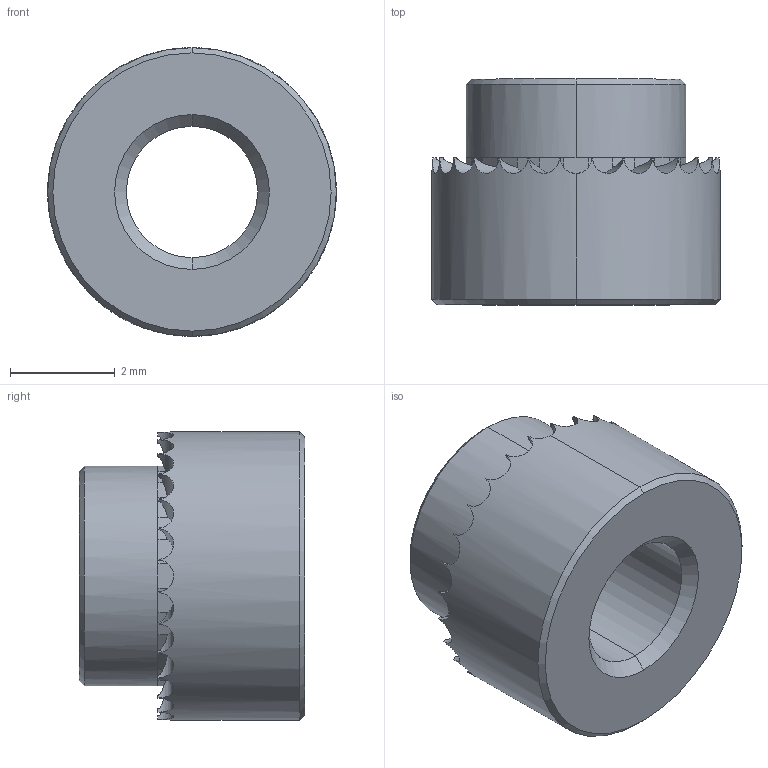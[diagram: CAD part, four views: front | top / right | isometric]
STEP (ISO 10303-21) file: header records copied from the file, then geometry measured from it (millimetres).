
FILE_DESCRIPTION (( 'STEP AP203' ), '1' );
FILE_NAME ('P0829.025-20G-ZP.step', '2019-03-21T22:10:56', ( '' ), ( '' ), 'SwSTEP 2.0', 'SolidWorks 2017', '' );
FILE_SCHEMA (( 'CONFIG_CONTROL_DESIGN' ));
Length unit declared in the file: millimetre
Products named in the file (1): P0829.025-20G-ZP
Bounding box: 5.5 x 4.3 x 5.5 mm (x, y, z)
Volume: 63.1 mm3; surface area: 138.4 mm2
Topology: 1 solids, 1 shells, 128 faces, 312 edges, 186 vertices
Faces by surface type: plane 86, cylinder 34, cone 8
Entity records: 3963 total; most frequent: CARTESIAN_POINT 965, ORIENTED_EDGE 624, DIRECTION 612, EDGE_CURVE 312, AXIS2_PLACEMENT_3D 229, VERTEX_POINT 186, VECTOR 154, LINE 154
